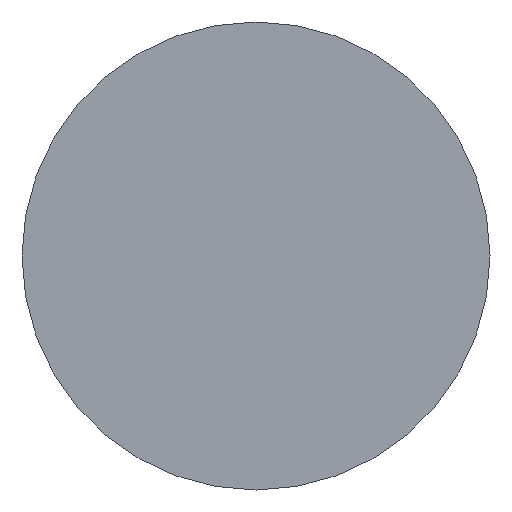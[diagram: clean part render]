
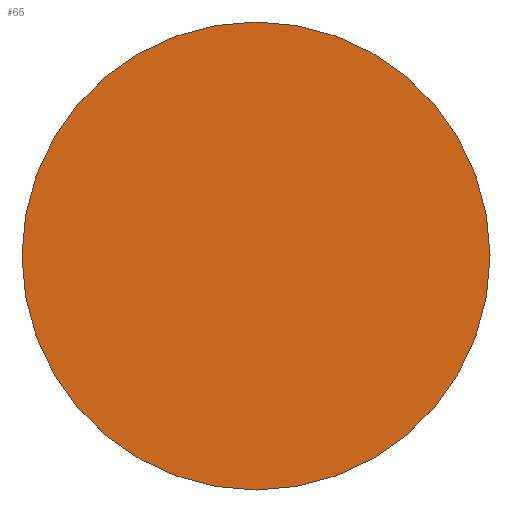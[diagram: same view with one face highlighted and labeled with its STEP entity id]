
A CAD part, left-side view. The second image highlights one B-rep face of the part: STEP entity #65.
In plain terms, the highlighted planar face has unit normal (-1, 0, 0).
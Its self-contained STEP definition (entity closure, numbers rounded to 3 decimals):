
#1 = DIRECTION ( 'NONE',  ( 1., 0., 0. ) ) ;
#3 = CARTESIAN_POINT ( 'NONE',  ( 0., 12., 0. ) ) ;
#18 = EDGE_CURVE ( 'NONE', #122, #266, #258, .T. ) ;
#24 = EDGE_CURVE ( 'NONE', #266, #122, #159, .T. ) ;
#38 = DIRECTION ( 'NONE',  ( 1., 0., 0. ) ) ;
#48 = EDGE_LOOP ( 'NONE', ( #272, #128 ) ) ;
#60 = FACE_OUTER_BOUND ( 'NONE', #48, .T. ) ;
#65 = ADVANCED_FACE ( 'NONE', ( #60 ), #121, .T. ) ;
#70 = CARTESIAN_POINT ( 'NONE',  ( 0., -12., 0. ) ) ;
#76 = AXIS2_PLACEMENT_3D ( 'NONE', #113, #1, #231 ) ;
#87 = AXIS2_PLACEMENT_3D ( 'NONE', #186, #38, #259 ) ;
#113 = CARTESIAN_POINT ( 'NONE',  ( 0., 0., 0. ) ) ;
#117 = DIRECTION ( 'NONE',  ( 0., -1., 0. ) ) ;
#121 = PLANE ( 'NONE',  #138 ) ;
#122 = VERTEX_POINT ( 'NONE', #70 ) ;
#128 = ORIENTED_EDGE ( 'NONE', *, *, #18, .F. ) ;
#138 = AXIS2_PLACEMENT_3D ( 'NONE', #193, #247, #117 ) ;
#159 = CIRCLE ( 'NONE', #76, 12. ) ;
#186 = CARTESIAN_POINT ( 'NONE',  ( 0., 0., 0. ) ) ;
#193 = CARTESIAN_POINT ( 'NONE',  ( 0., 0., 0. ) ) ;
#231 = DIRECTION ( 'NONE',  ( 0., 1., 0. ) ) ;
#247 = DIRECTION ( 'NONE',  ( -1., 0., 0. ) ) ;
#258 = CIRCLE ( 'NONE', #87, 12. ) ;
#259 = DIRECTION ( 'NONE',  ( 0., 1., 0. ) ) ;
#266 = VERTEX_POINT ( 'NONE', #3 ) ;
#272 = ORIENTED_EDGE ( 'NONE', *, *, #24, .F. ) ;
